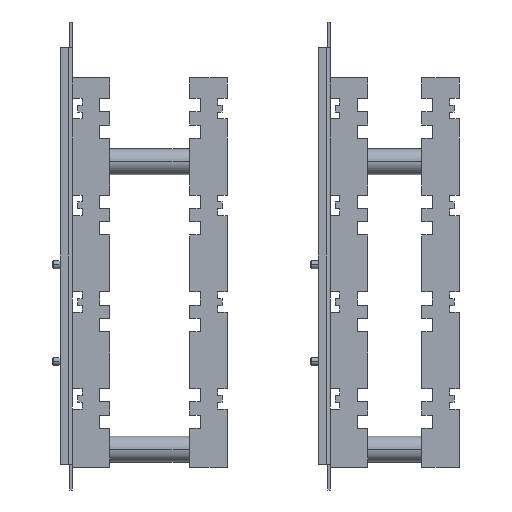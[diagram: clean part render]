
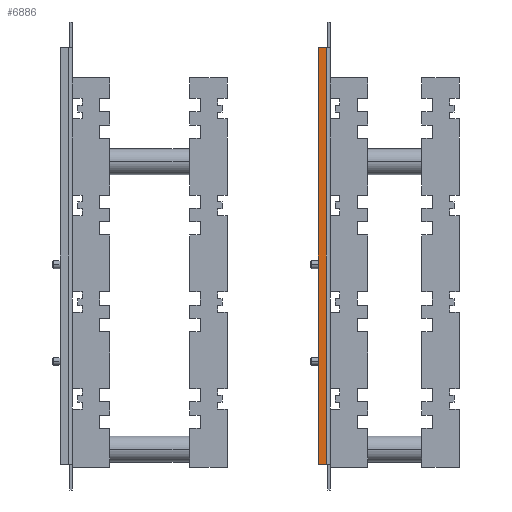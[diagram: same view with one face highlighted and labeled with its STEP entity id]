
A CAD part, front view. The second image highlights one B-rep face of the part: STEP entity #6886.
In plain terms, the highlighted planar face has unit normal (0, -1, 0).
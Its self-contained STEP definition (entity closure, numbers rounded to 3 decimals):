
#1362=DIRECTION('',(0.,0.,1.));
#1363=VECTOR('',#1362,323.);
#1364=CARTESIAN_POINT('',(199.,-4.5,20.));
#1365=LINE('',#1364,#1363);
#1406=DIRECTION('',(-1.,0.,0.));
#1407=VECTOR('',#1406,6.5);
#1408=CARTESIAN_POINT('',(199.,-4.5,343.));
#1409=LINE('',#1408,#1407);
#1426=DIRECTION('',(0.,0.,-1.));
#1427=VECTOR('',#1426,323.);
#1428=CARTESIAN_POINT('',(192.5,-4.5,343.));
#1429=LINE('',#1428,#1427);
#1434=DIRECTION('',(1.,0.,0.));
#1435=VECTOR('',#1434,6.5);
#1436=CARTESIAN_POINT('',(192.5,-4.5,20.));
#1437=LINE('',#1436,#1435);
#4210=CARTESIAN_POINT('',(199.,-4.5,20.));
#4211=VERTEX_POINT('',#4210);
#4212=CARTESIAN_POINT('',(199.,-4.5,343.));
#4213=VERTEX_POINT('',#4212);
#4278=CARTESIAN_POINT('',(192.5,-4.5,343.));
#4279=VERTEX_POINT('',#4278);
#4280=CARTESIAN_POINT('',(192.5,-4.5,20.));
#4281=VERTEX_POINT('',#4280);
#6872=CARTESIAN_POINT('',(200.,-4.5,266.255));
#6873=DIRECTION('',(0.,-1.,0.));
#6874=DIRECTION('',(0.,0.,-1.));
#6875=AXIS2_PLACEMENT_3D('',#6872,#6873,#6874);
#6876=PLANE('',#6875);
#6878=ORIENTED_EDGE('',*,*,#6877,.F.);
#6879=ORIENTED_EDGE('',*,*,#6847,.F.);
#6881=ORIENTED_EDGE('',*,*,#6880,.F.);
#6883=ORIENTED_EDGE('',*,*,#6882,.F.);
#6884=EDGE_LOOP('',(#6878,#6879,#6881,#6883));
#6885=FACE_OUTER_BOUND('',#6884,.F.);
#6847=EDGE_CURVE('',#4211,#4213,#1365,.T.);
#6877=EDGE_CURVE('',#4213,#4279,#1409,.T.);
#6880=EDGE_CURVE('',#4281,#4211,#1437,.T.);
#6882=EDGE_CURVE('',#4279,#4281,#1429,.T.);
#6886=ADVANCED_FACE('',(#6885),#6876,.T.);
